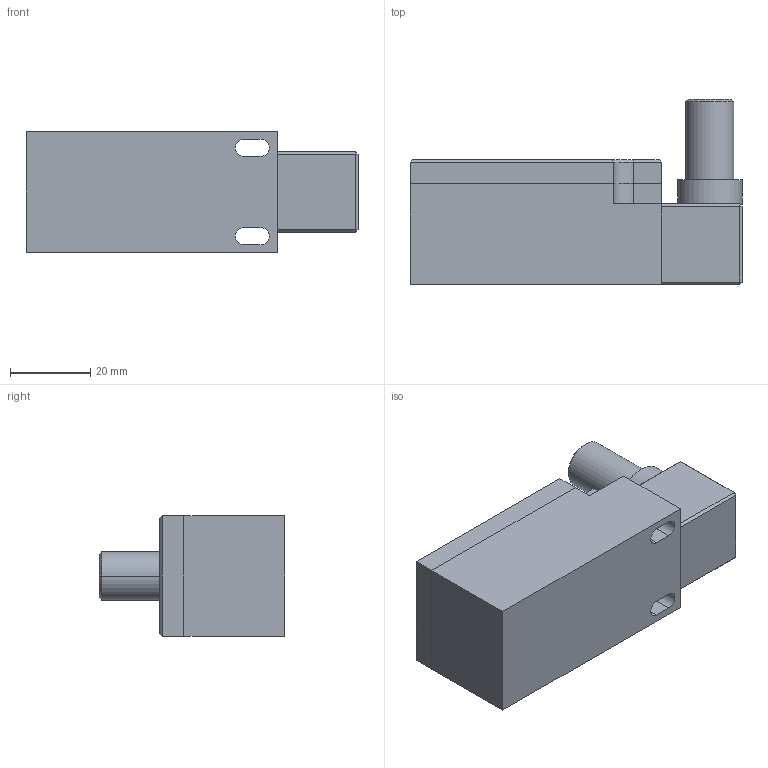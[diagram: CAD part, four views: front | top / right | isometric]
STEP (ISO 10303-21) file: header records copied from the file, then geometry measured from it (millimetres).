
FILE_DESCRIPTION (( 'STEP AP203' ), '1' );
FILE_NAME ('084.603.001-270°.STEP', '2017-03-22T08:22:16', ( 'Localadmin' ), ( 'Microsoft' ), 'SwSTEP 2.0', 'SolidWorks 2016', '' );
FILE_SCHEMA (( 'CONFIG_CONTROL_DESIGN' ));
Length unit declared in the file: millimetre
Products named in the file (1): 084.603.001-270°
Bounding box: 82.5 x 46 x 30 mm (x, y, z)
Volume: 64986.5 mm3; surface area: 17872 mm2
Topology: 5 solids, 5 shells, 74 faces, 168 edges, 104 vertices
Faces by surface type: plane 56, cylinder 14, cone 4
Entity records: 2113 total; most frequent: DIRECTION 350, CARTESIAN_POINT 347, ORIENTED_EDGE 336, EDGE_CURVE 168, LINE 136, VECTOR 136, AXIS2_PLACEMENT_3D 107, VERTEX_POINT 104
